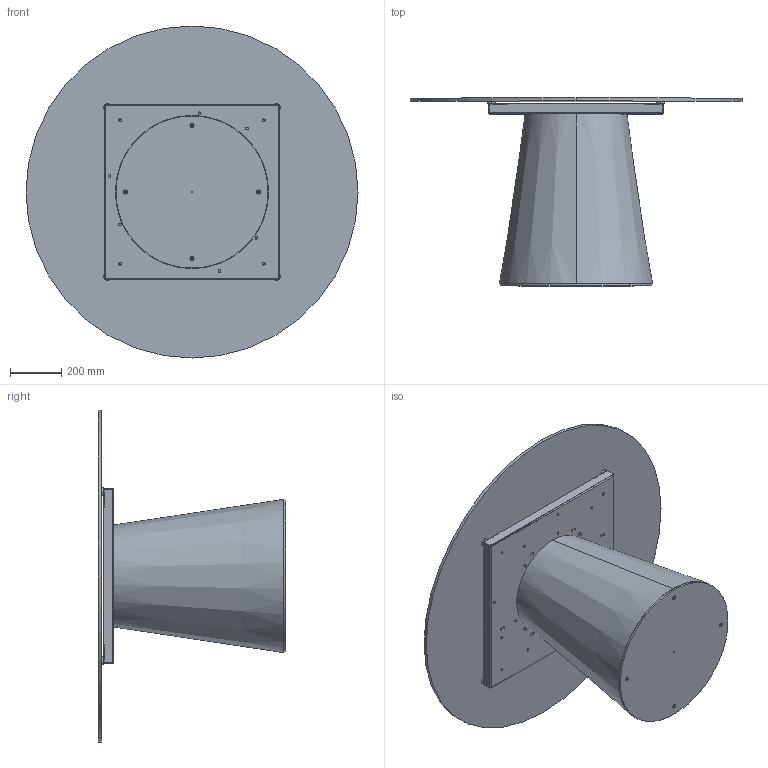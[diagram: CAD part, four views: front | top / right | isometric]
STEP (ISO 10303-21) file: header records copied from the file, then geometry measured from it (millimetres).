
FILE_DESCRIPTION (( 'STEP AP203' ), '1' );
FILE_NAME ('TO05G_Teo_d.130_Glass.STEP', '2024-08-02T09:16:50', ( '' ), ( '' ), 'SwSTEP 2.0', 'SolidWorks 2022', '' );
FILE_SCHEMA (( 'CONFIG_CONTROL_DESIGN' ));
Length unit declared in the file: millimetre
Products named in the file (11): TTAV0801 TELAIO UNIVERSALE TONDO-PIASTRINA; TTAV0801-02-TELAIO UNIVERSALE TONDO; BASE TED LEGNO CON ZAVORRA; M8xXXmm_hex_M8X20mm; COLLO TELAIO UNIVERSALE TTAV0801 CON FERRAMENTA_MTG TOP CRISTALLO VERNICIATO-CERAMICA; TTAV0801-02-TELAIO UNIVERSALE TONDO-VASSOIO; TO05G_Teo_d.130_Glass; TEO0000-00-TEO BASE LEGNO IMPIALLACCIATA LEVIGATO PRONTA X VERNICE; C1XCRMXX-00-piani Rotondi Cristallo_C05 D.130cm; 434070-00-PIEDINO TPV GOMMA NERO D. 30x8max18_filo estetico; TEO000000PIA-00-TEO PIASTRA DI BASE IN METALLO GREZZO
Assembly tree (19 placements, depth 4):
  TO05G_Teo_d.130_Glass
    BASE TED LEGNO CON ZAVORRA
      TEO000000PIA-00-TEO PIASTRA DI BASE IN METALLO GREZZO
      TEO0000-00-TEO BASE LEGNO IMPIALLACCIATA LEVIGATO PRONTA X VERNICE
      M8xXXmm_hex_M8X20mm  x4
    COLLO TELAIO UNIVERSALE TTAV0801 CON FERRAMENTA_MTG TOP CRISTALLO VERNICIATO-CERAMICA
      TTAV0801-02-TELAIO UNIVERSALE TONDO
        TTAV0801-02-TELAIO UNIVERSALE TONDO-VASSOIO
        TTAV0801 TELAIO UNIVERSALE TONDO-PIASTRINA  x4
      434070-00-PIEDINO TPV GOMMA NERO D. 30x8max18_filo estetico  x4
    C1XCRMXX-00-piani Rotondi Cristallo_C05 D.130cm
Bounding box: 1300 x 735.19 x 1300 mm (x, y, z)
Volume: 46192880.6 mm3; surface area: 7130369.4 mm2
Topology: 20 solids, 20 shells, 648 faces, 1650 edges, 1040 vertices
Faces by surface type: plane 322, cylinder 266, cone 36, torus 24
Entity records: 13956 total; most frequent: DIRECTION 2275, CARTESIAN_POINT 2146, ORIENTED_EDGE 2102, EDGE_CURVE 1051, AXIS2_PLACEMENT_3D 806, VERTEX_POINT 677, VECTOR 663, LINE 663
